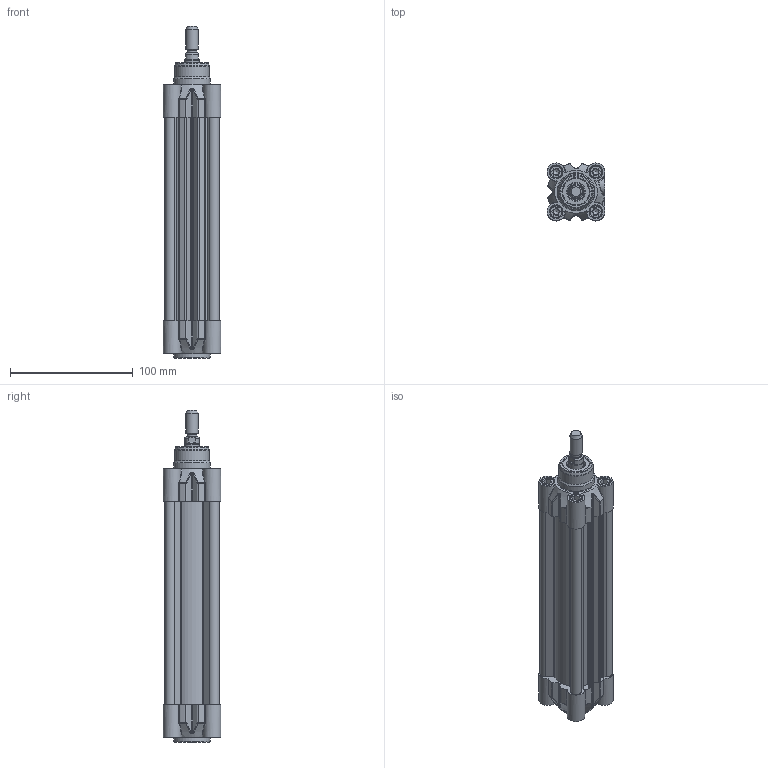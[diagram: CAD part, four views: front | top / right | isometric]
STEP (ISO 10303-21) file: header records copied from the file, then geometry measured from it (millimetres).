
FILE_DESCRIPTION(/* description */ ('CILINDRO D.E. MAGNETICO AMMORTIZZATO ISO 15552'),/* implementation_level */ '2;1');
FILE_NAME(/* name */ 'T:\Archivio Inventor\- 00 NUOVI STP PER SITO CON STELO CHE SI MUOVE\SERIE H - U\SERIE HDM\HDM032-TUBO NUOVO\HDM032.125.GS.M.stp',/* time_stamp */ '2018-07-25T10:57:37+02:00',/* author */ ('carlo.corazza'),/* organization */ (''),/* preprocessor_version */ 'ST-DEVELOPER v16.5',/* originating_system */ 'Autodesk Inventor 2017',/* authorisation */ '');
FILE_SCHEMA (('AUTOMOTIVE_DESIGN { 1 0 10303 214 3 1 1 }'));
Length unit declared in the file: millimetre
Products named in the file (5): HDM032.125.GS.M; TP; STELO-125; TA; CORPO-125
Assembly tree (4 placements, depth 2):
  HDM032.125.GS.M
    TP
    STELO-125
    TA
    CORPO-125
Bounding box: 47 x 47 x 271 mm (x, y, z)
Volume: 201627.6 mm3; surface area: 130156.2 mm2
Topology: 4 solids, 18 shells, 969 faces, 2356 edges, 1494 vertices
Faces by surface type: plane 330, cylinder 260, bspline 190, cone 86, torus 83, sphere 20
Full cylindrical faces by diameter (mm): 2 x2, 2.1 x2, 4 x2, 4.5 x2, 4.917 x8, 6 x8, 6.2 x8, 6.3 x4, 7 x2, 7.8 x4, 7.9 x3, 8 x4, 8.566 x2, 10 x9, 10.3 x8, 11.6 x1, 12 x1, 12.8 x1, 12.847 x1, 16 x1, 17 x2, 22 x3, 28 x1, 30 x2, 32 x1
Entity records: 31186 total; most frequent: CARTESIAN_POINT 9171, ORIENTED_EDGE 4162, DIRECTION 4048, EDGE_CURVE 2081, AXIS2_PLACEMENT_3D 1569, VERTEX_POINT 1436, EDGE_LOOP 1302, FACE_OUTER_BOUND 969
